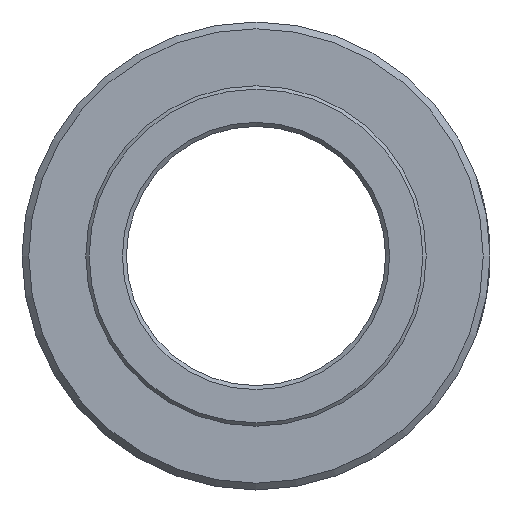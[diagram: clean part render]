
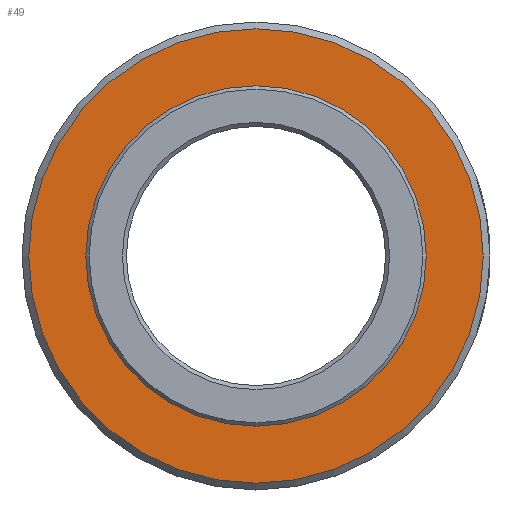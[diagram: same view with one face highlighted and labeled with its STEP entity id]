
A CAD part, left-side view. The second image highlights one B-rep face of the part: STEP entity #49.
In plain terms, the highlighted planar face has unit normal (-1, 0, 0).
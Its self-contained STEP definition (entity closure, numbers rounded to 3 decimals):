
#49 = ADVANCED_FACE( '', ( #110, #111 ), #112, .T. );
#110 = FACE_OUTER_BOUND( '', #193, .T. );
#111 = FACE_BOUND( '', #194, .T. );
#112 = PLANE( '', #195 );
#193 = EDGE_LOOP( '', ( #276 ) );
#194 = EDGE_LOOP( '', ( #277 ) );
#195 = AXIS2_PLACEMENT_3D( '', #278, #279, #280 );
#276 = ORIENTED_EDGE( '', *, *, #387, .T. );
#277 = ORIENTED_EDGE( '', *, *, #388, .F. );
#278 = CARTESIAN_POINT( '', ( 6.2, 0., 25.1 ) );
#279 = DIRECTION( '', ( -1., 0., 0. ) );
#280 = DIRECTION( '', ( 0., 0., 1. ) );
#387 = EDGE_CURVE( '', #433, #433, #434, .T. );
#388 = EDGE_CURVE( '', #435, #435, #436, .T. );
#433 = VERTEX_POINT( '', #496 );
#434 = CIRCLE( '', #497, 33.5 );
#435 = VERTEX_POINT( '', #498 );
#436 = CIRCLE( '', #499, 25.1 );
#496 = CARTESIAN_POINT( '', ( 6.2, 0., 33.5 ) );
#497 = AXIS2_PLACEMENT_3D( '', #745, #746, #747 );
#498 = CARTESIAN_POINT( '', ( 6.2, 0., 25.1 ) );
#499 = AXIS2_PLACEMENT_3D( '', #748, #749, #750 );
#745 = CARTESIAN_POINT( '', ( 6.2, 0., 0. ) );
#746 = DIRECTION( '', ( -1., 0., 0. ) );
#747 = DIRECTION( '', ( 0., 0., 1. ) );
#748 = CARTESIAN_POINT( '', ( 6.2, 0., 0. ) );
#749 = DIRECTION( '', ( -1., 0., 0. ) );
#750 = DIRECTION( '', ( 0., 0., 1. ) );
